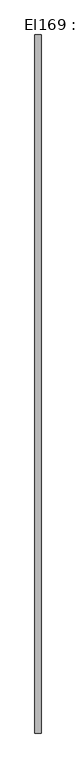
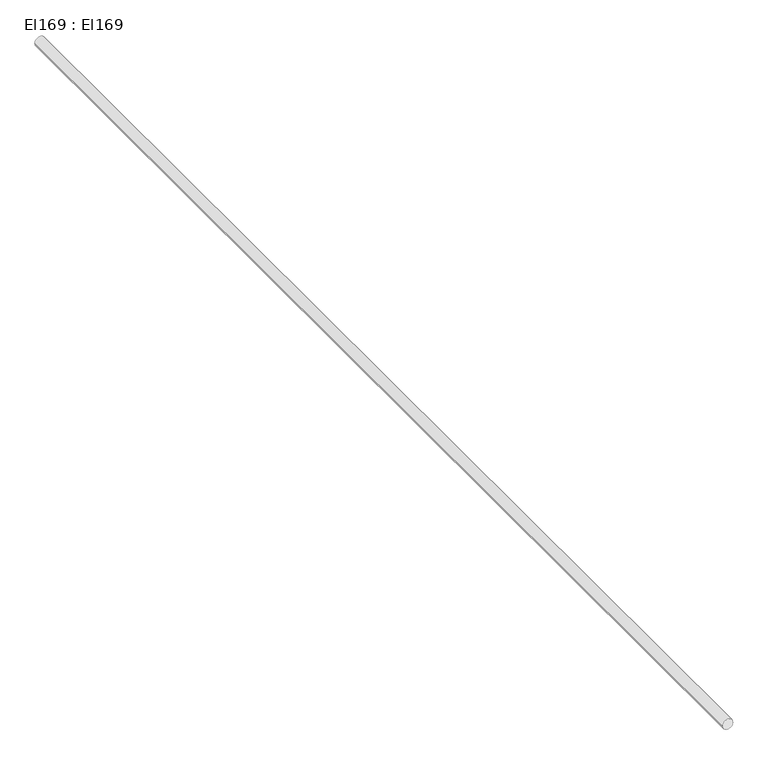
"""IFC4 building model written with IfcOpenShell, lengths in millimetres: cable carrier segment geometry, El169 : El169."""

from ifc_helpers import new_model, si_unit, point, frame, frame_2d, origin, place, context, project, spatial, circle_curve, trimmed, segment, composite_curve, outline, extrude, source, transform, mapped, element, save


def el169_el169_1eb29579(model_context):
    return source(origin(), model_context, "Body", "SweptSolid", [
        extrude(outline(composite_curve([segment(trimmed(circle_curve(frame_2d((2950.0, 5212.5)), 9.5), [point((2950.0, 5203.0))], [point((2950.0, 5222.0))], False, "CARTESIAN"), True, "CONTINUOUS"), segment(trimmed(circle_curve(frame_2d((2950.0, 5212.5)), 9.5), [point((2950.0, 5222.0))], [point((2950.0, 5203.0))], False, "CARTESIAN"), True, "CONTINUOUS")], self_intersect=False)), frame((0.0, 30948.28, 0.0), z_axis=(0.0, 1.0, 0.0), x_axis=(0.0, 0.0, 1.0)), (0.0, 0.0, 1.0), 2150.05),
    ])


if __name__ == "__main__":
    model = new_model("IFC4")
    model_context = context("Model", 3, world=origin())
    ifc_project = project(units=[si_unit("LENGTHUNIT", "METRE", prefix="MILLI")], contexts=[model_context])
    site = spatial("IfcSite", under=ifc_project)
    building = spatial("IfcBuilding", under=site)
    placement = place(None, origin())
    el169_el169_shape = el169_el169_1eb29579(model_context)
    element("IfcCableCarrierSegment", 1, ObjectType="El169 : El169", at=placement, inside=building, context=model_context, shape_type="MappedRepresentation", body=[
        mapped(el169_el169_shape, transform((0.0, 0.0, 0.0), x_axis=(1.0, 0.0, 0.0), y_axis=(0.0, 1.0, 0.0), z_axis=(0.0, 0.0, 1.0))),
    ])
    save(model, "model.ifc")
